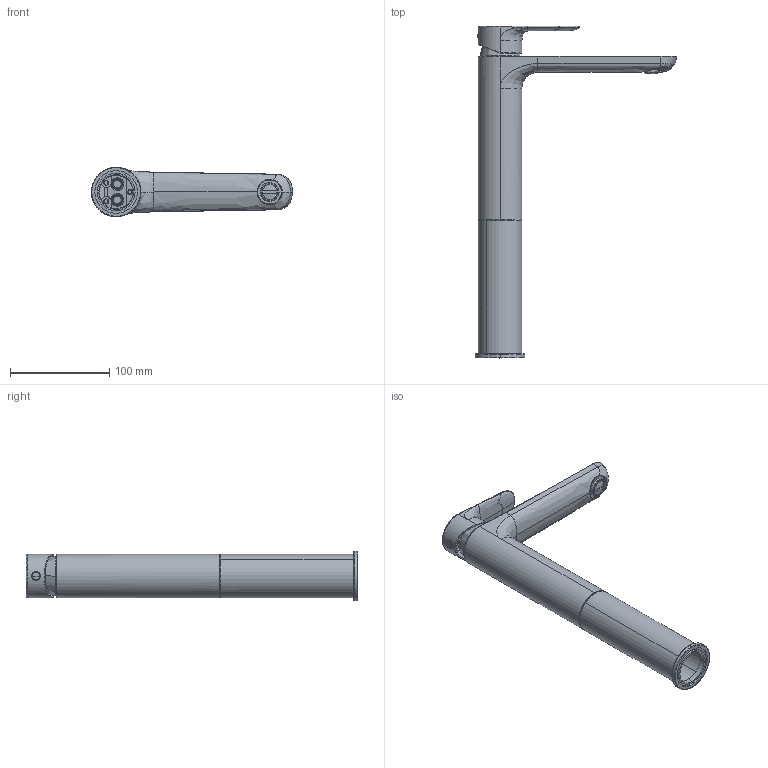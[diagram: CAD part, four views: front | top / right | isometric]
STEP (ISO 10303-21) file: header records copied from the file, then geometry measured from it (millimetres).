
FILE_DESCRIPTION (( 'STEP AP203' ), '1' );
FILE_NAME ('VIK3.STEP', '2022-10-13T12:34:35', ( '' ), ( '' ), 'SwSTEP 2.0', 'SolidWorks 2021', '' );
FILE_SCHEMA (( 'CONFIG_CONTROL_DESIGN' ));
Length unit declared in the file: millimetre
Products named in the file (12): C13.00.0013; 130438EX-01; S96-W; LAVABO MEDIO R; 77VIK_PROL; 130438-H-5; VIK3; M9608EX-02-02; BASETTA; 131438EX-02; 130838-N2; M9608EX-02-01
Assembly tree (11 placements, depth 3):
  VIK3
    LAVABO MEDIO R
      130438EX-01
      S96-W
      130438-H-5
      130838-N2
    77VIK_PROL
      131438EX-02
      M9608EX-02-02
      M9608EX-02-01
    BASETTA
    C13.00.0013
Bounding box: 202.99 x 334.9 x 50 mm (x, y, z)
Volume: 208624 mm3; surface area: 147539.1 mm2
Topology: 9 solids, 9 shells, 428 faces, 1207 edges, 835 vertices
Faces by surface type: cylinder 180, plane 110, bspline 103, cone 33, torus 2
Entity records: 35221 total; most frequent: CARTESIAN_POINT 24148, ORIENTED_EDGE 2406, DIRECTION 1512, EDGE_CURVE 1203, VERTEX_POINT 835, AXIS2_PLACEMENT_3D 587, B_SPLINE_CURVE_WITH_KNOTS 549, EDGE_LOOP 492
